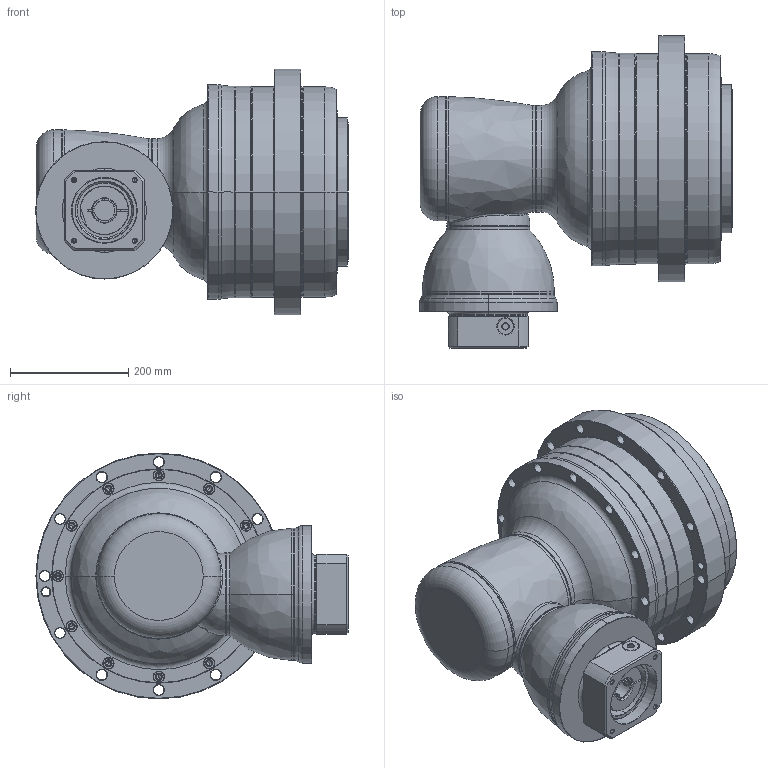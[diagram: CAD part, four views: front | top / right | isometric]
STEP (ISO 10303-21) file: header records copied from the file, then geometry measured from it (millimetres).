
FILE_DESCRIPTION((''),'2;1');
FILE_NAME('AHKA355_3ST_35-P0409800101_ASM','2016-12-06T',('d01943'),(''),'PRO/ENGINEER BY PARAMETRIC TECHNOLOGY CORPORATION, 2008410','PRO/ENGINEER BY PARAMETRIC TECHNOLOGY CORPORATION, 2008410','');
FILE_SCHEMA(('CONFIG_CONTROL_DESIGN'));
Length unit declared in the file: millimetre
Products named in the file (12): P1008600002; P1821100001; P0276100003; P0357100003; P1315600001; P1007600001; P1318600101; P0409800101; P0503800012; P0912601201; 21711422019; AHKA355_3ST_35-P0409800101_ASM
Assembly tree (11 placements, depth 2):
  AHKA355_3ST_35-P0409800101_ASM
    P1008600002
    P1821100001
    P0276100003
    P0357100003
    P1315600001
    P1007600001
    P1318600101
    P0409800101
    P0503800012
    P0912601201
    21711422019
Bounding box: 528 x 527 x 415 mm (x, y, z)
Volume: 36141226.6 mm3; surface area: 1753200.2 mm2
Topology: 12 solids, 12 shells, 950 faces, 2111 edges, 1221 vertices
Faces by surface type: cylinder 332, cone 330, torus 128, plane 123, bspline 35, sphere 2
Entity records: 32574 total; most frequent: CARTESIAN_POINT 10873, DIRECTION 5002, ORIENTED_EDGE 4110, AXIS2_PLACEMENT_3D 2137, EDGE_CURVE 2055, VERTEX_POINT 1221, CIRCLE 1199, EDGE_LOOP 1142
